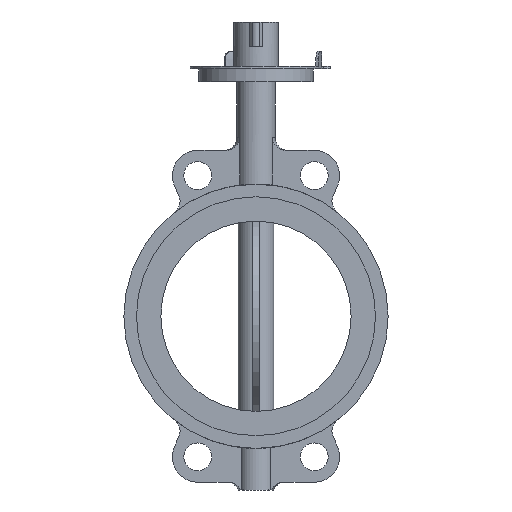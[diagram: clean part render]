
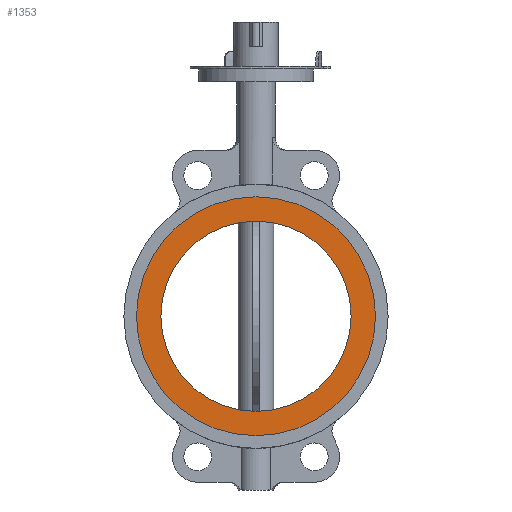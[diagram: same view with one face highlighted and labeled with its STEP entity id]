
A CAD part, left-side view. The second image highlights one B-rep face of the part: STEP entity #1353.
In plain terms, the highlighted planar face has unit normal (-1, 0, 0).
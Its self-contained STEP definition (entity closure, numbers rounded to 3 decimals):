
#1353=ADVANCED_FACE('',(#2975,#2977),#2979,.F.);
#2975=FACE_BOUND('',#2976,.T.);
#2976=EDGE_LOOP('',(#4154));
#2977=FACE_BOUND('',#2978,.T.);
#2978=EDGE_LOOP('',(#4155));
#2979=PLANE('',#2980);
#2980=AXIS2_PLACEMENT_3D('',#2981,#2982,#2983);
#2981=CARTESIAN_POINT('',(-27.5,0.,0.));
#2982=DIRECTION('',(1.,0.,0.));
#2983=DIRECTION('',(0.,1.,0.));
#4154=ORIENTED_EDGE('',*,*,#4816,.T.);
#4155=ORIENTED_EDGE('',*,*,#4876,.T.);
#4816=EDGE_CURVE('',#5597,#5597,#5598,.F.);
#4876=EDGE_CURVE('',#5691,#5691,#5692,.T.);
#5597=VERTEX_POINT('',#8373);
#5598=CIRCLE('',#8374,94.2);
#5691=VERTEX_POINT('',#8606);
#5692=CIRCLE('',#8607,75.);
#8373=CARTESIAN_POINT('',(-27.5,94.2,0.));
#8374=AXIS2_PLACEMENT_3D('',#8375,#8376,#8377);
#8375=CARTESIAN_POINT('',(-27.5,0.,0.));
#8376=DIRECTION('',(1.,0.,0.));
#8377=DIRECTION('',(0.,1.,0.));
#8606=CARTESIAN_POINT('',(-27.5,75.,0.));
#8607=AXIS2_PLACEMENT_3D('',#8608,#8609,#8610);
#8608=CARTESIAN_POINT('',(-27.5,0.,0.));
#8609=DIRECTION('',(1.,0.,0.));
#8610=DIRECTION('',(0.,1.,0.));
